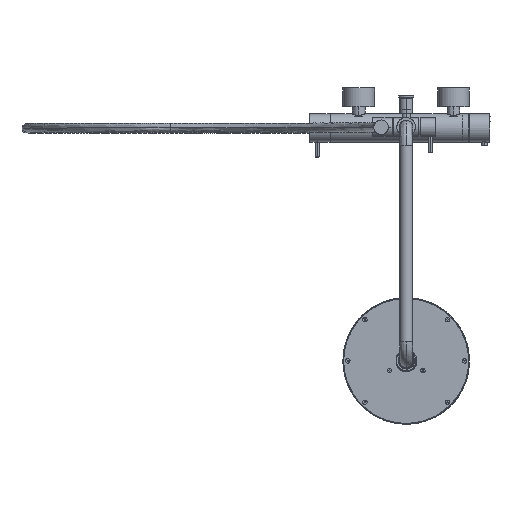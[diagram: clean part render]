
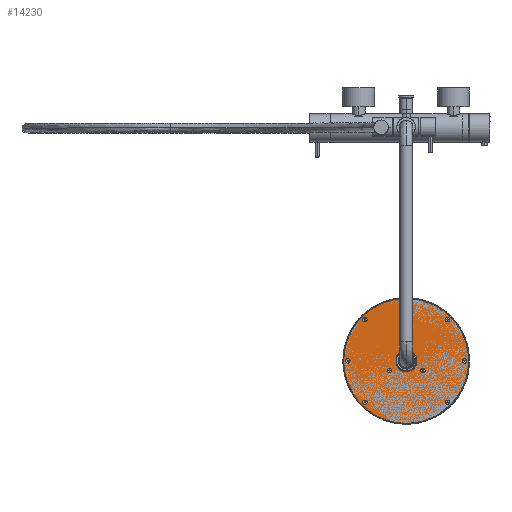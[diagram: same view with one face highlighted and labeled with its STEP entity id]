
A CAD part, top view. The second image highlights one B-rep face of the part: STEP entity #14230.
In plain terms, the highlighted planar face has unit normal (0, 0, 1).
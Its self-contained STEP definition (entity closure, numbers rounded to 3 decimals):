
#14230 = ADVANCED_FACE ( 'NONE', ( #122506 ), #28253, .T. ) ;
#20233 = CIRCLE ( 'NONE', #116135, 98.8 ) ;
#22563 = DIRECTION ( 'NONE',  ( 1., 0., 0. ) ) ;
#25670 = CARTESIAN_POINT ( 'NONE',  ( 770.774, 242.793, 1327.123 ) ) ;
#28253 = PLANE ( 'NONE',  #39707 ) ;
#31700 = DIRECTION ( 'NONE',  ( 0., 0., 1. ) ) ;
#31944 = EDGE_CURVE ( 'NONE', #91252, #110284, #40245, .T. ) ;
#33406 = DIRECTION ( 'NONE',  ( 0., 0., 1. ) ) ;
#34105 = DIRECTION ( 'NONE',  ( 1., 0., 0. ) ) ;
#39707 = AXIS2_PLACEMENT_3D ( 'NONE', #70834, #69435, #112044 ) ;
#40245 = CIRCLE ( 'NONE', #66920, 98.8 ) ;
#41115 = EDGE_LOOP ( 'NONE', ( #59801, #81694 ) ) ;
#59801 = ORIENTED_EDGE ( 'NONE', *, *, #64494, .T. ) ;
#64494 = EDGE_CURVE ( 'NONE', #110284, #91252, #20233, .T. ) ;
#66756 = CARTESIAN_POINT ( 'NONE',  ( 671.974, 242.793, 1327.123 ) ) ;
#66920 = AXIS2_PLACEMENT_3D ( 'NONE', #25670, #33406, #34105 ) ;
#69435 = DIRECTION ( 'NONE',  ( 0., 0., 1. ) ) ;
#70834 = CARTESIAN_POINT ( 'NONE',  ( 770.774, 242.793, 1327.123 ) ) ;
#81694 = ORIENTED_EDGE ( 'NONE', *, *, #31944, .T. ) ;
#91252 = VERTEX_POINT ( 'NONE', #113500 ) ;
#110284 = VERTEX_POINT ( 'NONE', #66756 ) ;
#112044 = DIRECTION ( 'NONE',  ( 1., 0., 0. ) ) ;
#113500 = CARTESIAN_POINT ( 'NONE',  ( 869.574, 242.793, 1327.123 ) ) ;
#116135 = AXIS2_PLACEMENT_3D ( 'NONE', #128723, #31700, #22563 ) ;
#122506 = FACE_OUTER_BOUND ( 'NONE', #41115, .T. ) ;
#128723 = CARTESIAN_POINT ( 'NONE',  ( 770.774, 242.793, 1327.123 ) ) ;
